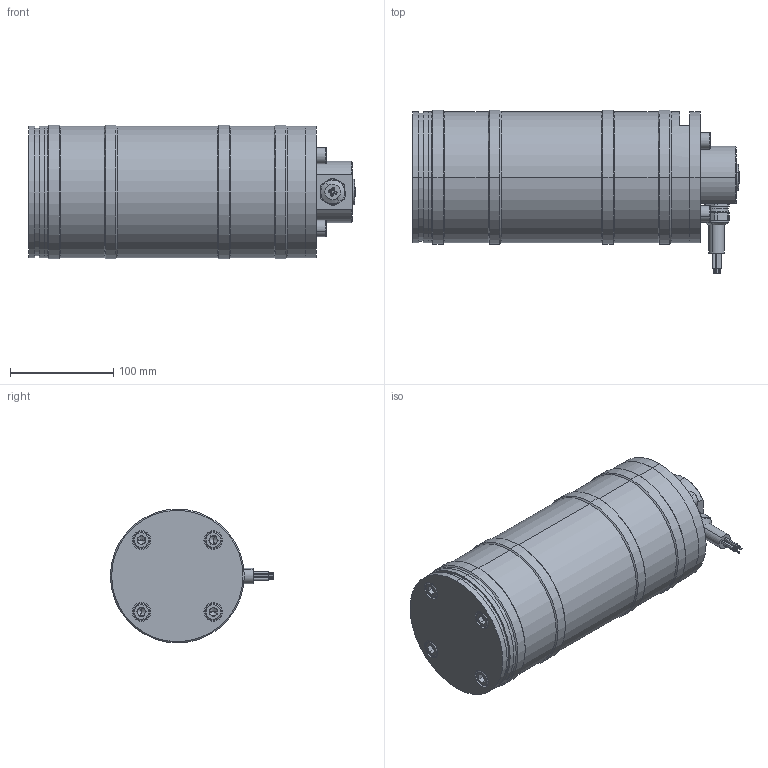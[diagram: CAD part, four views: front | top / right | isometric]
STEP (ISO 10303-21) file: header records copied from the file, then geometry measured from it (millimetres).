
FILE_DESCRIPTION (( 'STEP AP214' ), '1' );
FILE_NAME ('KOSD-115 2MN Load Cell.STEP', '2021-03-15T11:47:24', ( '' ), ( '' ), 'SwSTEP 2.0', 'SolidWorks 2021', '' );
FILE_SCHEMA (( 'AUTOMOTIVE_DESIGN' ));
Length unit declared in the file: millimetre
Products named in the file (8): socket head cap screw_din_DIN 912 M10 x 30 --- 30N; RFOU; KOSD-115 2MN Load Cell; Pg16 - 1100.16.080 6; 3059479r2 - Element; 5190199r2 - Gavel; Pg16 - Lock - 700782; 5190200r2 - Lock
Assembly tree (14 placements, depth 2):
  KOSD-115 2MN Load Cell
    3059479r2 - Element
    5190199r2 - Gavel
    5190200r2 - Lock
    Pg16 - Lock - 700782
    Pg16 - 1100.16.080 6
    RFOU
    socket head cap screw_din_DIN 912 M10 x 30 --- 30N  x8
Bounding box: 316.92 x 158.5 x 130 mm (x, y, z)
Volume: 3712082.4 mm3; surface area: 233977.4 mm2
Topology: 14 solids, 15 shells, 474 faces, 1026 edges, 602 vertices
Faces by surface type: plane 178, cylinder 158, cone 88, torus 32, bspline 16, sphere 2
Entity records: 9235 total; most frequent: CARTESIAN_POINT 1925, DIRECTION 1481, ORIENTED_EDGE 1204, AXIS2_PLACEMENT_3D 619, EDGE_CURVE 602, VERTEX_POINT 371, EDGE_LOOP 335, CIRCLE 333
